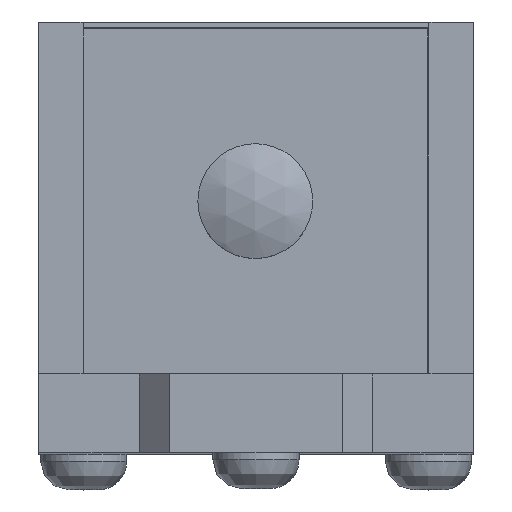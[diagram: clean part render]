
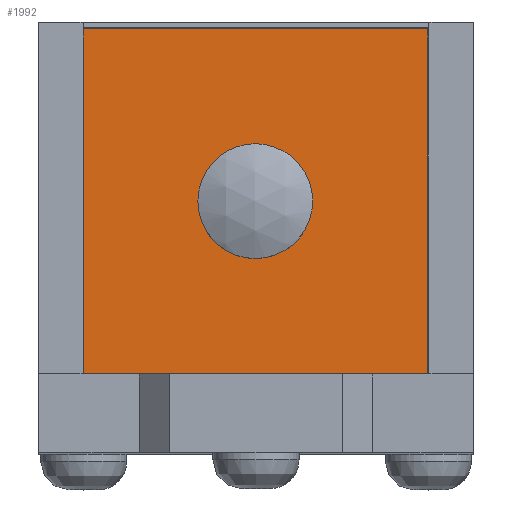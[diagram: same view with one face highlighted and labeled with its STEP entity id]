
A CAD part, top view. The second image highlights one B-rep face of the part: STEP entity #1992.
In plain terms, the highlighted planar face has unit normal (0, 0, 1).
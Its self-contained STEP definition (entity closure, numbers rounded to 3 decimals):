
#1841=CARTESIAN_POINT('',(-12.,-9.45,67.0));
#1842=VERTEX_POINT('',#1841);
#1849=CARTESIAN_POINT('',(-12.,14.55,67.0));
#1850=VERTEX_POINT('',#1849);
#1851=CARTESIAN_POINT('',(-12.,14.55,67.));
#1852=DIRECTION('',(0.0,-1.0,0.0));
#1853=VECTOR('',#1852,24.);
#1854=LINE('',#1851,#1853);
#1855=EDGE_CURVE('',#1850,#1842,#1854,.T.);
#1879=CARTESIAN_POINT('',(12.,-9.45,67.0));
#1880=VERTEX_POINT('',#1879);
#1887=CARTESIAN_POINT('',(-12.,-9.45,67.));
#1888=DIRECTION('',(1.0,0.0,0.0));
#1889=VECTOR('',#1888,24.);
#1890=LINE('',#1887,#1889);
#1891=EDGE_CURVE('',#1842,#1880,#1890,.T.);
#1910=CARTESIAN_POINT('',(12.,14.55,67.0));
#1911=VERTEX_POINT('',#1910);
#1918=CARTESIAN_POINT('',(12.,-9.45,67.));
#1919=DIRECTION('',(0.0,1.0,0.0));
#1920=VECTOR('',#1919,24.0);
#1921=LINE('',#1918,#1920);
#1922=EDGE_CURVE('',#1880,#1911,#1921,.T.);
#1940=CARTESIAN_POINT('',(12.,14.55,67.));
#1941=DIRECTION('',(-1.0,0.0,0.0));
#1942=VECTOR('',#1941,24.);
#1943=LINE('',#1940,#1942);
#1944=EDGE_CURVE('',#1911,#1850,#1943,.T.);
#1955=CARTESIAN_POINT('',(-4.0,2.55,67.));
#1956=VERTEX_POINT('',#1955);
#1957=CARTESIAN_POINT('',(0.0,2.55,67.));
#1958=DIRECTION('',(0.0,0.0,-1.0));
#1959=DIRECTION('',(1.0,0.0,0.0));
#1960=AXIS2_PLACEMENT_3D('',#1957,#1958,#1959);
#1961=CIRCLE('',#1960,4.0);
#1962=EDGE_CURVE('',#1956,#1956,#1961,.T.);
#1978=CARTESIAN_POINT('',(0.0,0.0,67.));
#1979=DIRECTION('',(0.0,0.0,-1.0));
#1980=DIRECTION('',(-1.0,0.0,0.0));
#1981=AXIS2_PLACEMENT_3D('',#1978,#1979,#1980);
#1982=PLANE('',#1981);
#1983=ORIENTED_EDGE('',*,*,#1855,.T.);
#1984=ORIENTED_EDGE('',*,*,#1891,.T.);
#1985=ORIENTED_EDGE('',*,*,#1922,.T.);
#1986=ORIENTED_EDGE('',*,*,#1944,.T.);
#1987=EDGE_LOOP('',(#1983,#1984,#1985,#1986));
#1988=FACE_OUTER_BOUND('',#1987,.T.);
#1989=ORIENTED_EDGE('',*,*,#1962,.T.);
#1990=EDGE_LOOP('',(#1989));
#1991=FACE_BOUND('',#1990,.T.);
#1992=ADVANCED_FACE('',(#1988,#1991),#1982,.F.);
